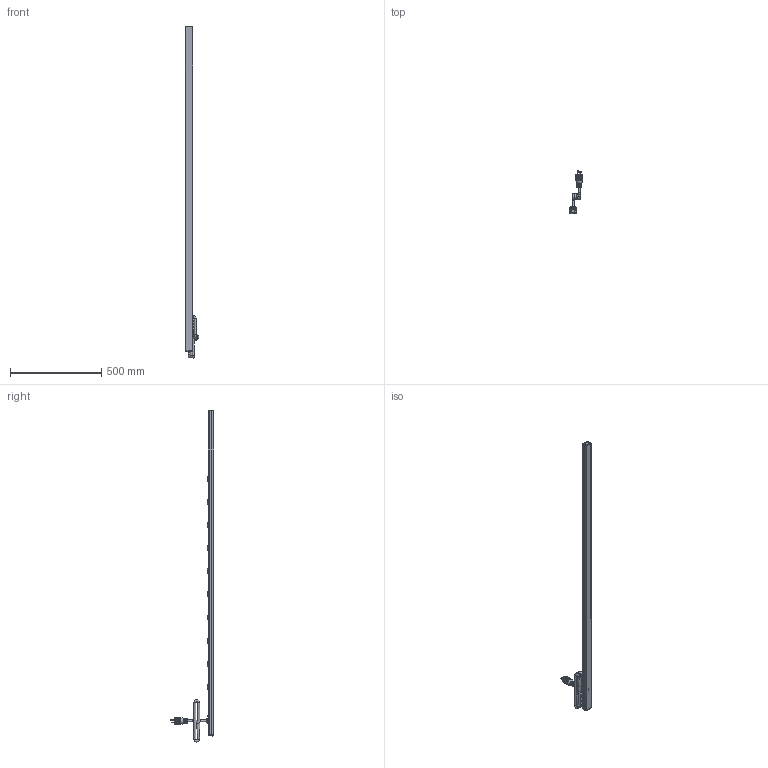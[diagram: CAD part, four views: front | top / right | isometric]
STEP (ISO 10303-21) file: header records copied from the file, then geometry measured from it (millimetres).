
FILE_DESCRIPTION((''),'2;1');
FILE_NAME('E:\Dutton\Manufacturing\drawings\Updated 2009\Vertical Rack Mount Strips\1589 Series\STEP''s\1589T70C1.stp','2010-01-21T08:45:28',('tfoster'),(''),'Autodesk Inventor 2010','Autodesk Inventor 2010','');
FILE_SCHEMA(('AUTOMOTIVE_DESIGN { 1 0 10303 214 1 1 1 1 }'));
Products named in the file (12): 1589T70C1; 70' - 10 outlet top; 70'  bottom; End Cap; End Cap w breaker; Reset Switch; #6 - 0.375 Type A screw; 20 amp Twist Cored; toothwasher; round head 1-way 8-32 x 0.5 screw; 20 Amp Receptacle; Pilot light
Assembly tree (21 placements, depth 2):
  1589T70C1
    End Cap
    End Cap w breaker
    Reset Switch
    #6 - 0.375 Type A screw  x4
    20 amp Twist Cored
    toothwasher
    round head 1-way 8-32 x 0.5 screw
    20 Amp Receptacle  x10
    Pilot light
  70' - 10 outlet top
  70'  bottom
Bounding box: 72.44 x 237.87 x 1822.34 mm (x, y, z)
Volume: 722359.8 mm3; surface area: 675888.3 mm2
Topology: 23 solids, 23 shells, 1428 faces, 3978 edges, 2585 vertices
Faces by surface type: plane 936, cylinder 301, bspline 97, sphere 45, cone 33, torus 16
Full cylindrical faces by diameter (mm): 1.803 x3, 1.905 x2, 2.794 x3, 3.175 x12, 4.3 x1, 4.826 x1, 7.849 x1, 11 x4, 12.5 x1, 19.05 x2, 22.606 x2, 25.146 x3, 26.67 x1
Entity records: 30538 total; most frequent: CARTESIAN_POINT 9318, ORIENTED_EDGE 4502, DIRECTION 4069, EDGE_CURVE 2251, VERTEX_POINT 1534, VECTOR 1373, LINE 1373, AXIS2_PLACEMENT_3D 1348
